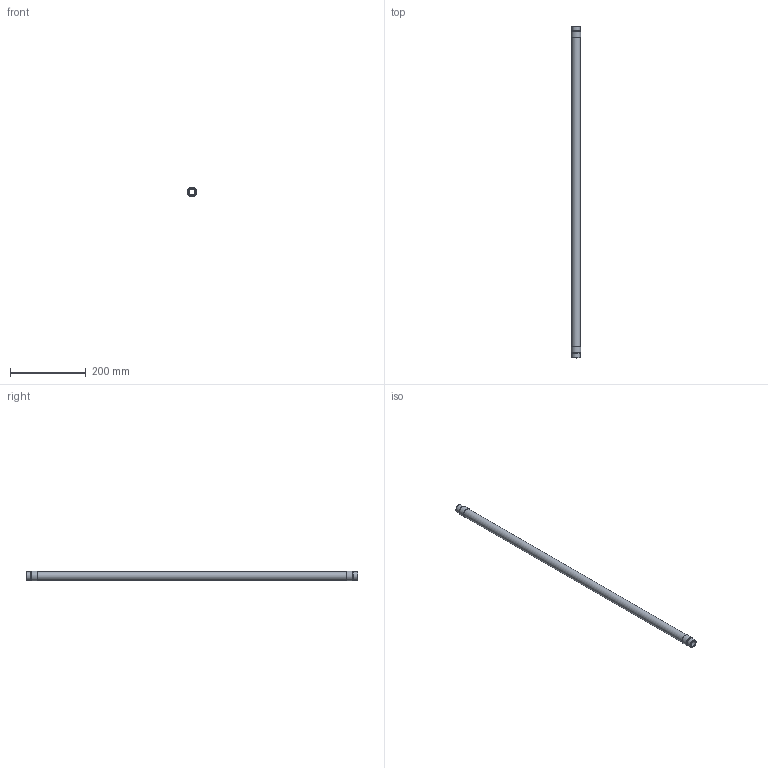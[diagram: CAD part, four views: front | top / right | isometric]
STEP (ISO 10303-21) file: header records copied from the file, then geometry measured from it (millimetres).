
FILE_DESCRIPTION(/* description */ (''),/* implementation_level */ '2;1');
FILE_NAME(/* name */ 'C:\001_Work\Designs\CSAWN\CSAWN-0.5x34.5.stp',/* time_stamp */ '2016-06-04T16:14:04-04:00',/* author */ ('rramoutar'),/* organization */ ('Mason Industries Inc.'),/* preprocessor_version */ 'ST-DEVELOPER v15.6',/* originating_system */ 'Autodesk Inventor 2015',/* authorisation */ '');
FILE_SCHEMA (('CONFIG_CONTROL_DESIGN'));
Length unit declared in the file: inch
Products named in the file (1): CSAWN-0.5x34.5
Bounding box: 25.09 x 876.3 x 25.09 mm (x, y, z)
Volume: 25865.1 mm3; surface area: 128830.3 mm2
Topology: 5 solids, 5 shells, 24 faces, 44 edges, 30 vertices
Faces by surface type: cylinder 10, plane 10, cone 4
Full cylindrical faces by diameter (mm): 15.799 x2, 21.336 x2, 22.098 x1, 22.708 x3, 25.095 x2
Entity records: 604 total; most frequent: DIRECTION 106, CARTESIAN_POINT 81, ORIENTED_EDGE 56, AXIS2_PLACEMENT_3D 53, EDGE_LOOP 48, STYLED_ITEM 29, CIRCLE 28, VERTEX_POINT 28
